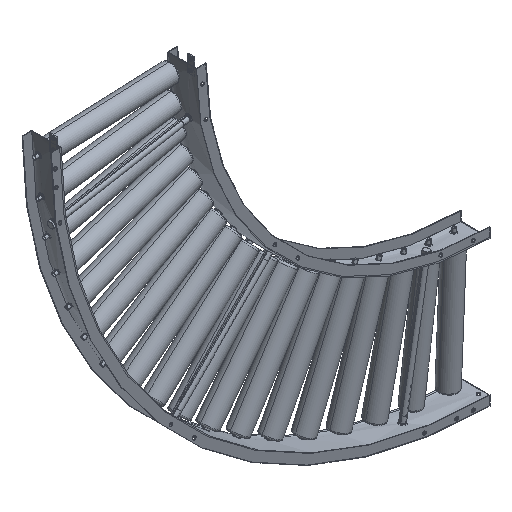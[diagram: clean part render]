
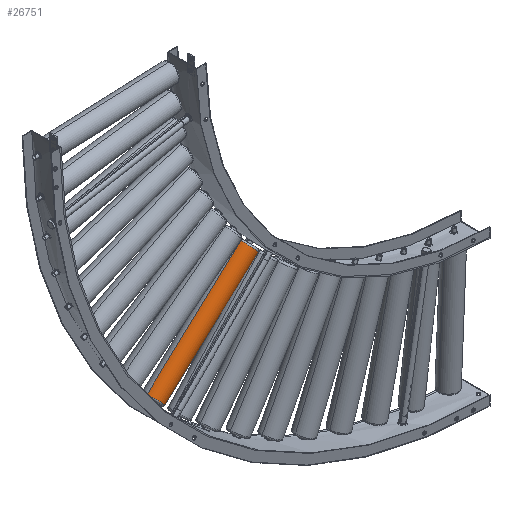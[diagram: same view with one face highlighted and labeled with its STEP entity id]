
A CAD part, isometric view. The second image highlights one B-rep face of the part: STEP entity #26751.
In plain terms, the highlighted cylindrical face has radius 28.6 mm (diameter 57.2 mm), a partial arc.
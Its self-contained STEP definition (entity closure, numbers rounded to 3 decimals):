
#259 = CARTESIAN_POINT ( 'NONE',  ( -44.189, 46.699, -163.098 ) ) ;
#1420 = EDGE_LOOP ( 'NONE', ( #23029, #28723, #27429, #27735 ) ) ;
#2748 = DIRECTION ( 'NONE',  ( 0.676, 0., -0.737 ) ) ;
#3251 = CIRCLE ( 'NONE', #20555, 28.6 ) ;
#4773 = VERTEX_POINT ( 'NONE', #5681 ) ;
#5519 = CARTESIAN_POINT ( 'NONE',  ( -63.511, 46.699, -142.012 ) ) ;
#5611 = DIRECTION ( 'NONE',  ( -0.737, 0., -0.676 ) ) ;
#5681 = CARTESIAN_POINT ( 'NONE',  ( -28.554, 46.699, -187.562 ) ) ;
#5968 = DIRECTION ( 'NONE',  ( -0.737, 0., -0.676 ) ) ;
#6552 = EDGE_CURVE ( 'NONE', #4773, #18095, #3251, .T. ) ;
#7354 = FACE_OUTER_BOUND ( 'NONE', #1420, .T. ) ;
#9269 = VERTEX_POINT ( 'NONE', #18742 ) ;
#9299 = CIRCLE ( 'NONE', #29053, 28.6 ) ;
#9534 = DIRECTION ( 'NONE',  ( 0.676, 0., -0.737 ) ) ;
#12155 = DIRECTION ( 'NONE',  ( -0.676, 0., 0.737 ) ) ;
#12725 = CYLINDRICAL_SURFACE ( 'NONE', #26638, 28.6 ) ;
#15562 = CARTESIAN_POINT ( 'NONE',  ( -24.867, 46.699, -184.184 ) ) ;
#16231 = EDGE_CURVE ( 'NONE', #4773, #24111, #29501, .T. ) ;
#16947 = DIRECTION ( 'NONE',  ( 0.737, 0., 0.676 ) ) ;
#18095 = VERTEX_POINT ( 'NONE', #30481 ) ;
#18742 = CARTESIAN_POINT ( 'NONE',  ( -354.736, 46.699, -408.87 ) ) ;
#19148 = CARTESIAN_POINT ( 'NONE',  ( -47.876, 46.699, -166.476 ) ) ;
#20555 = AXIS2_PLACEMENT_3D ( 'NONE', #19148, #28558, #2748 ) ;
#23029 = ORIENTED_EDGE ( 'NONE', *, *, #16231, .F. ) ;
#23675 = EDGE_CURVE ( 'NONE', #18095, #9269, #24691, .T. ) ;
#23901 = CARTESIAN_POINT ( 'NONE',  ( -335.414, 46.699, -429.956 ) ) ;
#24111 = VERTEX_POINT ( 'NONE', #27697 ) ;
#24691 = LINE ( 'NONE', #5519, #26851 ) ;
#24849 = DIRECTION ( 'NONE',  ( -0.737, 0., -0.676 ) ) ;
#25125 = EDGE_CURVE ( 'NONE', #9269, #24111, #9299, .T. ) ;
#26638 = AXIS2_PLACEMENT_3D ( 'NONE', #259, #5611, #12155 ) ;
#26751 = ADVANCED_FACE ( 'NONE', ( #7354 ), #12725, .T. ) ;
#26851 = VECTOR ( 'NONE', #24849, 1000. ) ;
#27429 = ORIENTED_EDGE ( 'NONE', *, *, #23675, .T. ) ;
#27697 = CARTESIAN_POINT ( 'NONE',  ( -316.092, 46.699, -451.042 ) ) ;
#27735 = ORIENTED_EDGE ( 'NONE', *, *, #25125, .T. ) ;
#28558 = DIRECTION ( 'NONE',  ( -0.737, 0., -0.676 ) ) ;
#28723 = ORIENTED_EDGE ( 'NONE', *, *, #6552, .T. ) ;
#29053 = AXIS2_PLACEMENT_3D ( 'NONE', #23901, #16947, #9534 ) ;
#29501 = LINE ( 'NONE', #15562, #29659 ) ;
#29659 = VECTOR ( 'NONE', #5968, 1000. ) ;
#30481 = CARTESIAN_POINT ( 'NONE',  ( -67.197, 46.699, -145.39 ) ) ;
